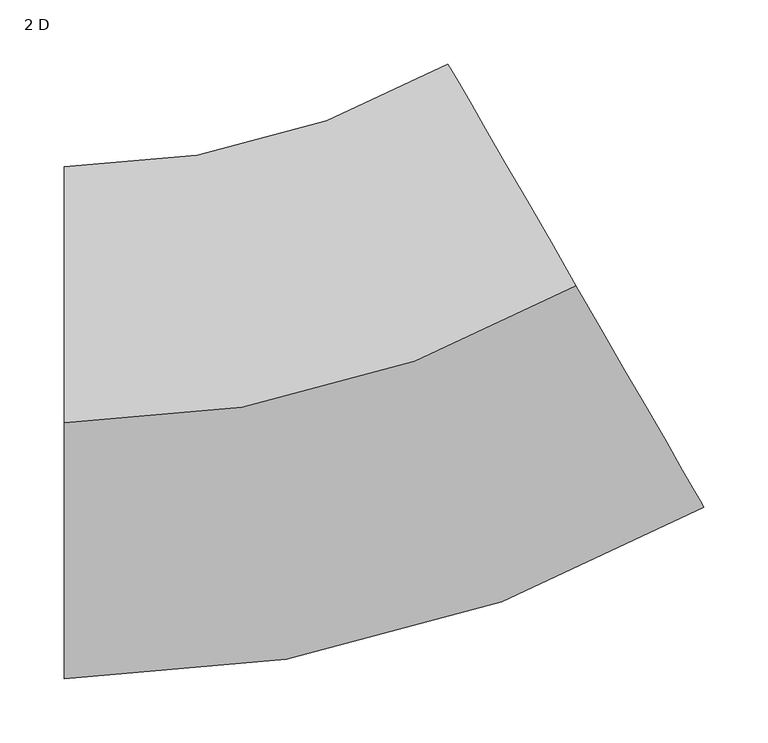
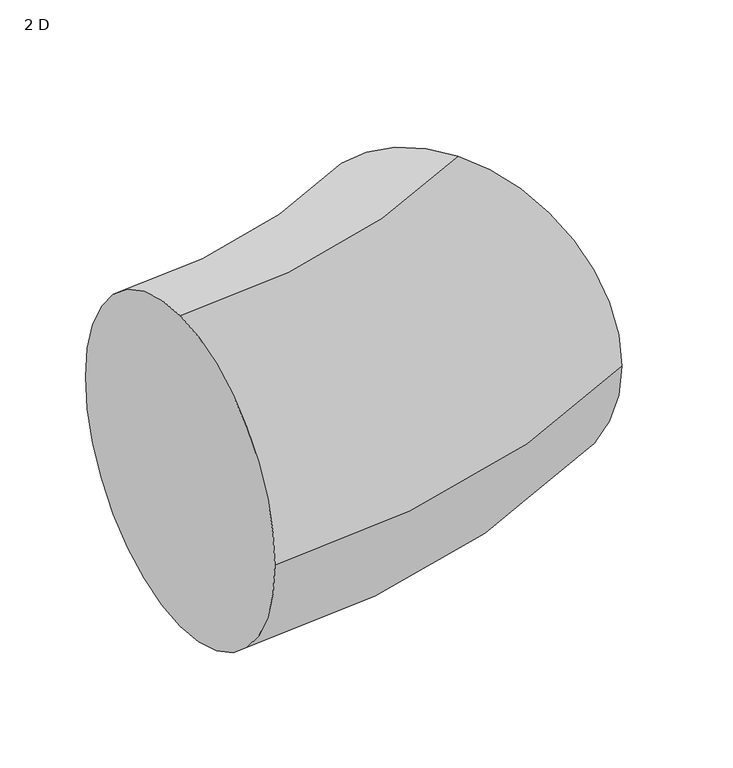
"""IFC4 building model written with IfcOpenShell, lengths in millimetres: duct fitting geometry, M_Cotovelo redondo : 2 D."""

from ifc_helpers import new_model, si_unit, point, frame, origin, place, context, project, spatial, circle_curve, ellipse_curve, trimmed, source, transform, mapped, element, save
from ifc_brep_helpers import plane_surface, revolved_surface, advanced_brep


def duct_fitting_2_d_6dcb9c69(model_context):
    return source(origin(), model_context, "Body", "AdvancedBrep", [
        advanced_brep(
        [(-214.359348, 0.0, 200.0), (-214.359348, 200.0, 0.0), (-214.359348, 0.0, -200.0), (-214.359348, -200.0, 0.0), (185.6406424, 107.1796714, 200.0), (285.64064, -66.0254107, 0.0), (185.6406424, 107.1796714, -200.0), (85.6406448, 280.3847536, 0.0)],
        [
            (0, 1, circle_curve(frame((-214.359348, 0.0, 0.0), z_axis=(-1.0, 0.0, 0.0), x_axis=(0.0, 1.0, 0.0)), 200.0)),
            (1, 2, circle_curve(frame((-214.359348, 0.0, 0.0), z_axis=(-1.0, 0.0, 0.0), x_axis=(0.0, 1.0, 0.0)), 200.0)),
            (2, 3, circle_curve(frame((-214.359348, 0.0, 0.0), z_axis=(-1.0, 0.0, 0.0), x_axis=(0.0, 1.0, 0.0)), 200.0)),
            (3, 0, circle_curve(frame((-214.359348, 0.0, 0.0), z_axis=(-1.0, 0.0, 0.0), x_axis=(0.0, 1.0, 0.0)), 200.0)),
            (4, 5, circle_curve(frame((185.6406424, 107.1796714, 0.0), z_axis=(0.8660254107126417, 0.49999998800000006, 0.0), x_axis=(-0.49999998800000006, 0.8660254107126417, 0.0)), 200.0)),
            (5, 6, circle_curve(frame((185.6406424, 107.1796714, 0.0), z_axis=(0.8660254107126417, 0.49999998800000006, 0.0), x_axis=(-0.49999998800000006, 0.8660254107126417, 0.0)), 200.0)),
            (6, 7, circle_curve(frame((185.6406424, 107.1796714, 0.0), z_axis=(0.8660254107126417, 0.49999998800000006, 0.0), x_axis=(-0.49999998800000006, 0.8660254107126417, 0.0)), 200.0)),
            (7, 4, circle_curve(frame((185.6406424, 107.1796714, 0.0), z_axis=(0.8660254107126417, 0.49999998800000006, 0.0), x_axis=(-0.49999998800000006, 0.8660254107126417, 0.0)), 200.0)),
            (7, 1, circle_curve(frame((-214.359348, 800.0, 0.0), z_axis=(0.0, 0.0, -1.0), x_axis=(0.0, -1.0, 0.0)), 600.0)),
            (0, 4, circle_curve(frame((-214.359348, 800.0, 200.0), z_axis=(0.0, 0.0, 1.0), x_axis=(0.0, -1.0, 0.0)), 800.0)),
            (6, 2, circle_curve(frame((-214.359348, 800.0, -200.0), z_axis=(0.0, 0.0, -1.0), x_axis=(0.0, -1.0, 0.0)), 800.0)),
            (5, 3, circle_curve(frame((-214.359348, 800.0, 0.0), z_axis=(0.0, 0.0, -1.0), x_axis=(0.0, -1.0, 0.0)), 1000.0)),
        ],
        [
            plane_surface(frame((-214.359348, 0.0, 0.0), z_axis=(-1.0, 0.0, 0.0), x_axis=(0.0, 0.0, 1.0))),
            plane_surface(frame((185.6406424, 107.1796714, 0.0), z_axis=(0.8660254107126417, 0.49999998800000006, 0.0), x_axis=(0.0, 0.0, 1.0))),
            revolved_surface(trimmed(ellipse_curve(frame((-214.359348, 0.0, 0.0), z_axis=(-1.0, 0.0, 0.0), x_axis=(0.0, 1.0, 0.0)), 200.0, 200.0), [point((-214.359348, 0.0, 200.0))], [point((-214.359348, 200.0, 0.0))], True, "CARTESIAN"), (-214.359348, 800.0, 0.0), (0.0, 0.0, 1.0)),
            revolved_surface(trimmed(ellipse_curve(frame((-214.359348, 0.0, 0.0), z_axis=(-1.0, 0.0, 0.0), x_axis=(0.0, 1.0, 0.0)), 200.0, 200.0), [point((-214.359348, 200.0, 0.0))], [point((-214.359348, 0.0, -200.0))], True, "CARTESIAN"), (-214.359348, 800.0, 0.0), (0.0, 0.0, 1.0)),
            revolved_surface(trimmed(ellipse_curve(frame((-214.359348, 0.0, 0.0), z_axis=(-1.0, 0.0, 0.0), x_axis=(0.0, 1.0, 0.0)), 200.0, 200.0), [point((-214.359348, 0.0, -200.0))], [point((-214.359348, -200.0, 0.0))], True, "CARTESIAN"), (-214.359348, 800.0, 0.0), (0.0, 0.0, 1.0)),
            revolved_surface(trimmed(ellipse_curve(frame((-214.359348, 0.0, 0.0), z_axis=(-1.0, 0.0, 0.0), x_axis=(0.0, 1.0, 0.0)), 200.0, 200.0), [point((-214.359348, -200.0, 0.0))], [point((-214.359348, 0.0, 200.0))], True, "CARTESIAN"), (-214.359348, 800.0, 0.0), (0.0, 0.0, 1.0)),
        ],
        [
            (0, [[1, 2, 3, 4]]),
            (1, [[5, 6, 7, 8]]),
            (2, [[9, -1, 10, -8]]),
            (3, [[11, -2, -9, -7]]),
            (4, [[12, -3, -11, -6]]),
            (5, [[-10, -4, -12, -5]]),
        ],
    ),
    ])


if __name__ == "__main__":
    model = new_model("IFC4")
    model_context = context("Model", 3, world=origin())
    ifc_project = project(units=[si_unit("LENGTHUNIT", "METRE", prefix="MILLI")], contexts=[model_context])
    site = spatial("IfcSite", under=ifc_project)
    building = spatial("IfcBuilding", under=site)
    placement = place(None, origin())
    duct_fitting_2_d_shape = duct_fitting_2_d_6dcb9c69(model_context)
    element("IfcDuctFitting", 1, ObjectType="M_Cotovelo redondo : 2 D", at=placement, inside=building, context=model_context, shape_type="MappedRepresentation", body=[
        mapped(duct_fitting_2_d_shape, transform((0.0, 0.0, 0.0), x_axis=(1.0, 0.0, 0.0), y_axis=(0.0, 1.0, 0.0), z_axis=(0.0, 0.0, 1.0))),
    ])
    save(model, "model.ifc")
